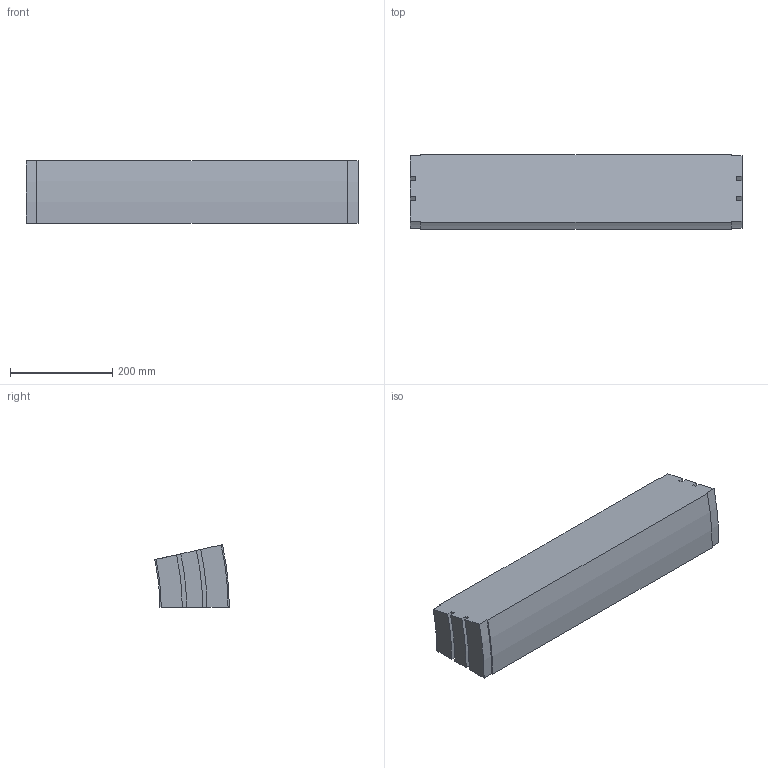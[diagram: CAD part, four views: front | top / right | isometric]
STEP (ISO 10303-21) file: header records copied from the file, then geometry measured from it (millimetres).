
FILE_DESCRIPTION (( 'STEP AP214' ), '1' );
FILE_NAME ('02.150V12.650.N FS-650-MTC-150 Bocht verticaal 12,5°.STEP', '2013-03-29T13:21:56', ( 'Gebruiker' ), ( '' ), 'SwSTEP 2.0', 'SolidWorks 2012', '' );
FILE_SCHEMA (( 'AUTOMOTIVE_DESIGN' ));
Length unit declared in the file: millimetre
Products named in the file (1): 02.150V12.650.N FS-650-MTC-150 Bocht verticaal 12,5°
Bounding box: 650.5 x 146.24 x 122.94 mm (x, y, z)
Volume: 9586657.2 mm3; surface area: 356955 mm2
Topology: 1 solids, 1 shells, 30 faces, 84 edges, 56 vertices
Faces by surface type: plane 16, cylinder 14
Entity records: 1010 total; most frequent: DIRECTION 174, CARTESIAN_POINT 171, ORIENTED_EDGE 168, EDGE_CURVE 84, AXIS2_PLACEMENT_3D 59, VECTOR 56, LINE 56, VERTEX_POINT 56
